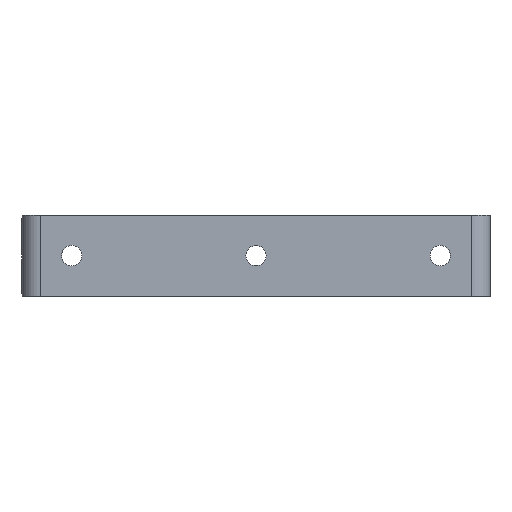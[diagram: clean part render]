
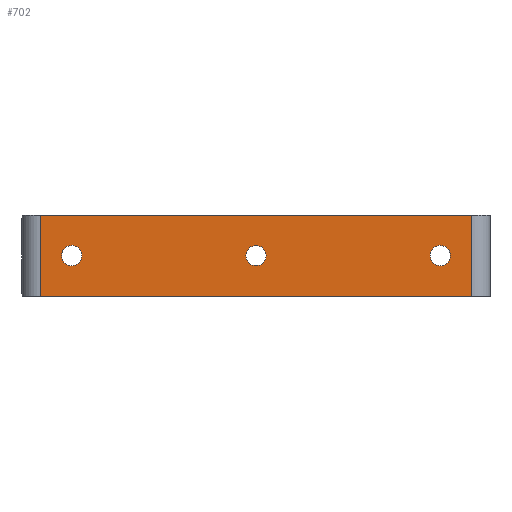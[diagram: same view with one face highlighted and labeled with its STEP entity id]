
A CAD part, top view. The second image highlights one B-rep face of the part: STEP entity #702.
In plain terms, the highlighted planar face has unit normal (0, 0, 1).
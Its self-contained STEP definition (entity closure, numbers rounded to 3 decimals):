
#30=FACE_BOUND('',#142,.T.);
#31=FACE_BOUND('',#143,.T.);
#32=FACE_BOUND('',#144,.T.);
#51=PLANE('',#800);
#88=FACE_OUTER_BOUND('',#141,.T.);
#141=EDGE_LOOP('',(#593,#594,#595,#596));
#142=EDGE_LOOP('',(#597));
#143=EDGE_LOOP('',(#598));
#144=EDGE_LOOP('',(#599));
#185=LINE('',#1143,#236);
#192=LINE('',#1164,#243);
#197=LINE('',#1180,#248);
#199=LINE('',#1183,#250);
#236=VECTOR('',#946,10.);
#243=VECTOR('',#973,10.);
#248=VECTOR('',#996,10.);
#250=VECTOR('',#1000,10.);
#252=CIRCLE('',#729,5.5);
#254=CIRCLE('',#732,5.5);
#256=CIRCLE('',#735,5.5);
#290=VERTEX_POINT('',#1008);
#292=VERTEX_POINT('',#1014);
#294=VERTEX_POINT('',#1020);
#336=VERTEX_POINT('',#1140);
#337=VERTEX_POINT('',#1142);
#340=VERTEX_POINT('',#1161);
#341=VERTEX_POINT('',#1163);
#344=EDGE_CURVE('',#290,#290,#252,.T.);
#347=EDGE_CURVE('',#292,#292,#254,.T.);
#350=EDGE_CURVE('',#294,#294,#256,.T.);
#410=EDGE_CURVE('',#337,#336,#185,.T.);
#421=EDGE_CURVE('',#341,#340,#192,.T.);
#429=EDGE_CURVE('',#340,#337,#197,.T.);
#431=EDGE_CURVE('',#336,#341,#199,.T.);
#593=ORIENTED_EDGE('',*,*,#410,.T.);
#594=ORIENTED_EDGE('',*,*,#431,.T.);
#595=ORIENTED_EDGE('',*,*,#421,.T.);
#596=ORIENTED_EDGE('',*,*,#429,.T.);
#597=ORIENTED_EDGE('',*,*,#344,.T.);
#598=ORIENTED_EDGE('',*,*,#347,.T.);
#599=ORIENTED_EDGE('',*,*,#350,.T.);
#702=ADVANCED_FACE('',(#88,#30,#31,#32),#51,.T.);
#729=AXIS2_PLACEMENT_3D('',#1009,#807,#808);
#732=AXIS2_PLACEMENT_3D('',#1015,#814,#815);
#735=AXIS2_PLACEMENT_3D('',#1021,#821,#822);
#800=AXIS2_PLACEMENT_3D('',#1182,#998,#999);
#807=DIRECTION('center_axis',(0.,0.,-1.));
#808=DIRECTION('ref_axis',(1.,0.,0.));
#814=DIRECTION('center_axis',(0.,0.,-1.));
#815=DIRECTION('ref_axis',(1.,0.,0.));
#821=DIRECTION('center_axis',(0.,0.,-1.));
#822=DIRECTION('ref_axis',(1.,0.,0.));
#946=DIRECTION('',(0.,1.,0.));
#973=DIRECTION('',(0.,-1.,0.));
#996=DIRECTION('',(1.,0.,0.));
#998=DIRECTION('center_axis',(0.,0.,1.));
#999=DIRECTION('ref_axis',(1.,0.,0.));
#1000=DIRECTION('',(-1.,0.,0.));
#1008=CARTESIAN_POINT('',(-5.5,0.,5.));
#1009=CARTESIAN_POINT('Origin',(0.,0.,5.));
#1014=CARTESIAN_POINT('',(94.5,0.,5.));
#1015=CARTESIAN_POINT('Origin',(100.,0.,5.));
#1020=CARTESIAN_POINT('',(-105.5,0.,5.));
#1021=CARTESIAN_POINT('Origin',(-100.,0.,5.));
#1140=CARTESIAN_POINT('',(117.,22.,5.));
#1142=CARTESIAN_POINT('',(117.,-22.,5.));
#1143=CARTESIAN_POINT('',(117.,-11.,5.));
#1161=CARTESIAN_POINT('',(-117.,-22.,5.));
#1163=CARTESIAN_POINT('',(-117.,22.,5.));
#1164=CARTESIAN_POINT('',(-117.,11.,5.));
#1180=CARTESIAN_POINT('',(-127.,-22.,5.));
#1182=CARTESIAN_POINT('Origin',(0.,0.,5.));
#1183=CARTESIAN_POINT('',(127.,22.,5.));
